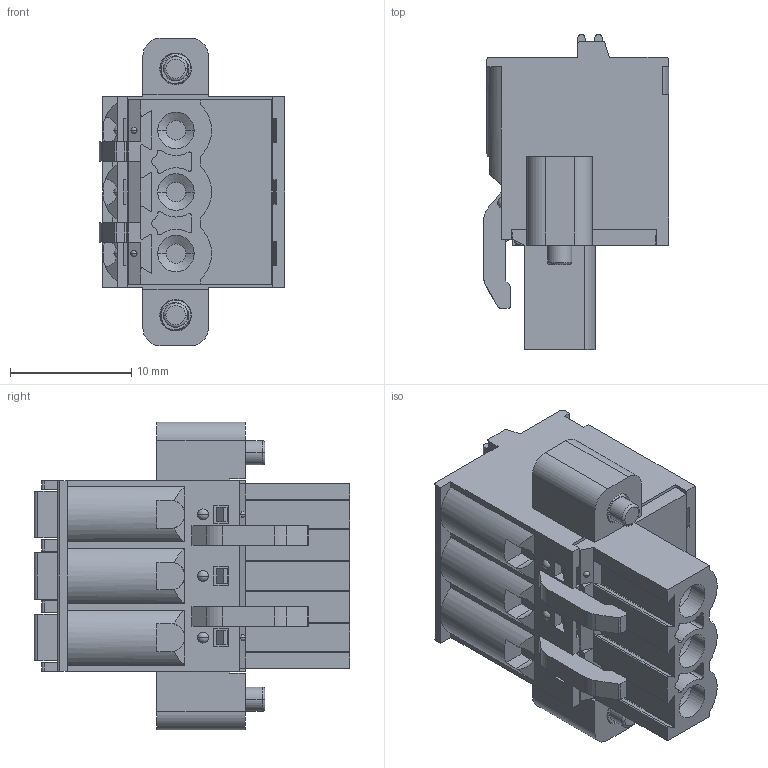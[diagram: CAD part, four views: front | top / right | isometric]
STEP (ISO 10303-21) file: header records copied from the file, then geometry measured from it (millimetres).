
FILE_DESCRIPTION((''),'2;1');
FILE_NAME('33','2019-04-09T',('zhenbing.lai'),(''),'CREO PARAMETRIC BY PTC INC, 2016260','CREO PARAMETRIC BY PTC INC, 2016260','');
FILE_SCHEMA(('CONFIG_CONTROL_DESIGN'));
Length unit declared in the file: millimetre
Products named in the file (1): 33
Bounding box: 15.3 x 26 x 25.4 mm (x, y, z)
Volume: 4334.6 mm3; surface area: 3025 mm2
Topology: 3 solids, 6 shells, 570 faces, 1576 edges, 1046 vertices
Faces by surface type: plane 396, cylinder 122, cone 18, torus 12, bspline 12, sphere 10
Entity records: 25061 total; most frequent: CARTESIAN_POINT 10420, ORIENTED_EDGE 3124, DIRECTION 2917, EDGE_CURVE 1562, VECTOR 1071, LINE 1071, VERTEX_POINT 1046, AXIS2_PLACEMENT_3D 923
